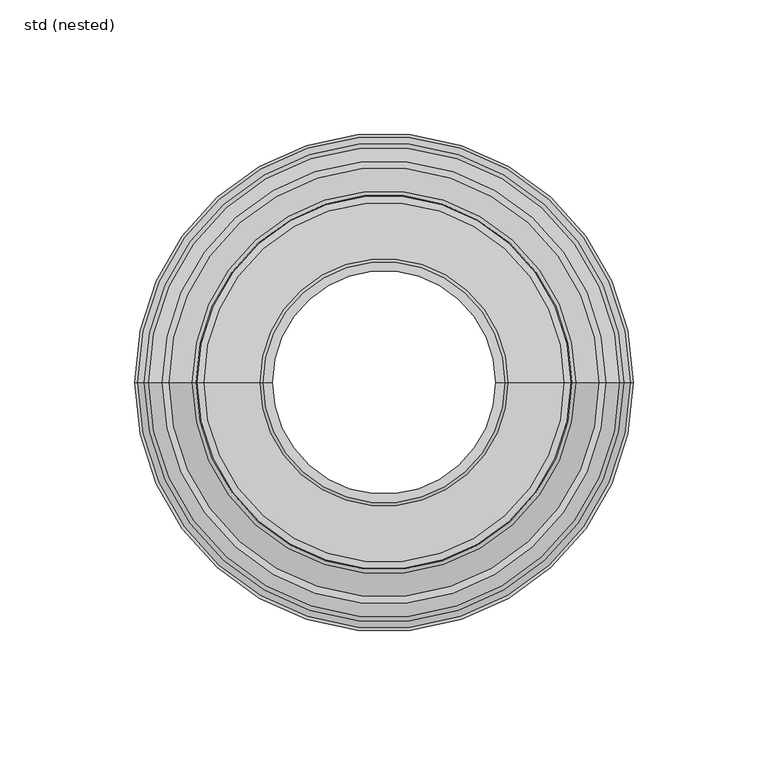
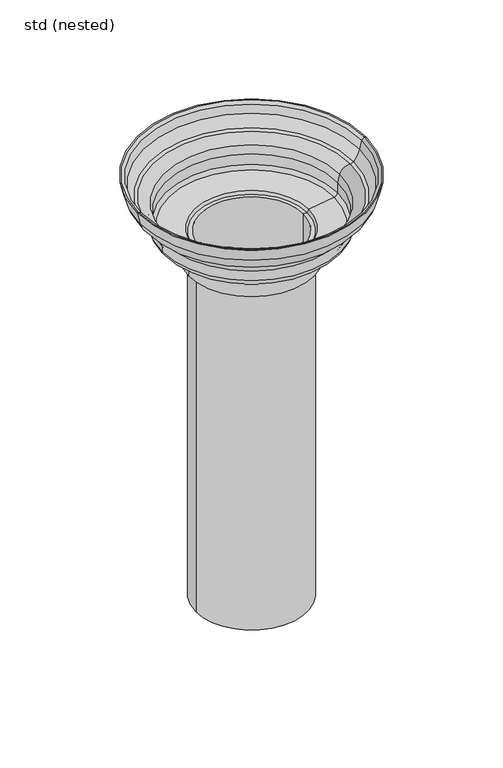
"""IFC4 building model written with IfcOpenShell, lengths in millimetres: sanitary terminal geometry, RSen_50_PF_AV_Akasison vertical pipe connector 90_SH_Akatherm : std (nested)."""

from ifc_helpers import new_model, si_unit, point, frame, origin, place, context, project, spatial, polyline, circle_curve, ellipse_curve, trimmed, source, transform, mapped, element, save
from ifc_brep_helpers import plane_surface, cylinder_surface, revolved_surface, advanced_brep


def std_nested_e9431c89(model_context):
    return source(origin(), model_context, "Body", "AdvancedBrep", [
        advanced_brep(
        [(45.0, 0.0, -357.52), (-45.0, 0.0, -357.52), (-45.0, 0.0, -68.52), (45.0, 0.0, -68.52), (41.5, 0.0, -357.52), (-41.5, 0.0, -357.52), (41.5, 0.0, -48.02), (-41.5, 0.0, -48.02), (90.0047931, 0.0, -10.1812936), (-90.0047931, 0.0, -10.1812936), (-92.4995384, 0.0, 0.0), (92.4995384, 0.0, 0.0), (84.2466253, 0.0, -20.0231125), (-84.2466253, 0.0, -20.0231125), (79.1473684, 0.0, -21.6811629), (-79.1473684, 0.0, -21.6811629), (73.6605848, 0.0, -25.792428), (-73.6605848, 0.0, -25.792428), (72.660037, 0.0, -31.3780377), (-72.660037, 0.0, -31.3780377), (72.3644862, 0.0, -39.8415054), (-72.3644862, 0.0, -39.8415054), (67.2031799, 0.0, -45.5737168), (-67.2031799, 0.0, -45.5737168), (56.324613, 0.0, -47.1025997), (-56.324613, 0.0, -47.1025997), (51.1605654, 0.0, -52.9394936), (-51.1605654, 0.0, -52.9394936), (50.8886067, 0.0, -68.52), (-50.8886067, 0.0, -68.52), (44.7679122, 0.0, -48.02), (-44.7679122, 0.0, -48.02), (45.9530602, 0.0, -45.5307436), (-45.9530602, 0.0, -45.5307436), (66.7856606, 0.0, -42.6029126), (-66.7856606, 0.0, -42.6029126), (69.3663137, 0.0, -39.7368069), (-69.3663137, 0.0, -39.7368069), (69.6684176, 0.0, -31.0856847), (-69.6684176, 0.0, -31.0856847), (71.1043754, 0.0, -24.3118251), (-71.1043754, 0.0, -24.3118251), (79.7201822, 0.0, -18.6593312), (-79.7201822, 0.0, -18.6593312), (82.2933078, 0.0, -17.7029777), (-82.2933078, 0.0, -17.7029777), (87.2752615, 0.0, -8.7152952), (-87.2752615, 0.0, -8.7152952), (88.9439984, 0.0, -1.9050206), (-88.9439984, 0.0, -1.9050206), (91.3721663, 0.0, 0.0), (-91.3721663, 0.0, 0.0)],
        [
            (0, 1, circle_curve(frame((0.0, 0.0, -357.52), z_axis=(0.0, 0.0, 1.0), x_axis=(-1.0, 0.0, 0.0)), 45.0)),
            (1, 2),
            (2, 3, circle_curve(frame((0.0, 0.0, -68.52), z_axis=(0.0, 0.0, -1.0), x_axis=(-1.0, 0.0, 0.0)), 45.0)),
            (3, 0),
            (1, 0, circle_curve(frame((0.0, 0.0, -357.52), z_axis=(0.0, 0.0, 1.0), x_axis=(-1.0, 0.0, 0.0)), 45.0)),
            (3, 2, circle_curve(frame((0.0, 0.0, -68.52), z_axis=(0.0, 0.0, -1.0), x_axis=(-1.0, 0.0, 0.0)), 45.0)),
            (4, 5, circle_curve(frame((0.0, 0.0, -357.52), z_axis=(0.0, 0.0, 1.0), x_axis=(-1.0, 0.0, 0.0)), 41.5)),
            (5, 1),
            (0, 4),
            (5, 4, circle_curve(frame((0.0, 0.0, -357.52), z_axis=(0.0, 0.0, 1.0), x_axis=(-1.0, 0.0, 0.0)), 41.5)),
            (6, 7, circle_curve(frame((0.0, 0.0, -48.02), z_axis=(0.0, 0.0, 1.0), x_axis=(-1.0, 0.0, 0.0)), 41.5)),
            (7, 5),
            (4, 6),
            (7, 6, circle_curve(frame((0.0, 0.0, -48.02), z_axis=(0.0, 0.0, 1.0), x_axis=(-1.0, 0.0, 0.0)), 41.5)),
            (8, 9, circle_curve(frame((0.0, 0.0, -10.1812936), z_axis=(0.0, 0.0, 1.0), x_axis=(-1.0, 0.0, 0.0)), 90.0047931)),
            (9, 10),
            (10, 11, circle_curve(frame((0.0, 0.0, 0.0), z_axis=(0.0, 0.0, -1.0), x_axis=(-1.0, 0.0, 0.0)), 92.4995384)),
            (11, 8),
            (9, 8, circle_curve(frame((0.0, 0.0, -10.1812936), z_axis=(0.0, 0.0, 1.0), x_axis=(-1.0, 0.0, 0.0)), 90.0047931)),
            (11, 10, circle_curve(frame((0.0, 0.0, 0.0), z_axis=(0.0, 0.0, -1.0), x_axis=(-1.0, 0.0, 0.0)), 92.4995384)),
            (12, 13, circle_curve(frame((0.0, 0.0, -20.0231125), z_axis=(0.0, 0.0, 1.0), x_axis=(-1.0, 0.0, 0.0)), 84.2466253)),
            (13, 9, circle_curve(frame((-70.5794497, 0.0, -5.4214581), z_axis=(0.0, 1.0, 0.0), x_axis=(1.0, 0.0, 0.0)), 20.0)),
            (8, 12, circle_curve(frame((70.5794497, 0.0, -5.4214581), z_axis=(0.0, 1.0, 0.0), x_axis=(-1.0, 0.0, 0.0)), 20.0)),
            (13, 12, circle_curve(frame((0.0, 0.0, -20.0231125), z_axis=(0.0, 0.0, 1.0), x_axis=(-1.0, 0.0, 0.0)), 84.2466253)),
            (14, 15, circle_curve(frame((0.0, 0.0, -21.6811629), z_axis=(0.0, 0.0, 1.0), x_axis=(-1.0, 0.0, 0.0)), 79.1473684)),
            (15, 13, circle_curve(frame((-78.8081659, 0.0, -11.9676726), z_axis=(0.0, 1.0, 0.0), x_axis=(1.0, 0.0, 0.0)), 9.7194111)),
            (12, 14, circle_curve(frame((78.8081659, 0.0, -11.9676726), z_axis=(0.0, 1.0, 0.0), x_axis=(-1.0, 0.0, 0.0)), 9.7194111)),
            (15, 14, circle_curve(frame((0.0, 0.0, -21.6811629), z_axis=(0.0, 0.0, 1.0), x_axis=(-1.0, 0.0, 0.0)), 79.1473684)),
            (16, 17, circle_curve(frame((0.0, 0.0, -25.792428), z_axis=(0.0, 0.0, 1.0), x_axis=(-1.0, 0.0, 0.0)), 73.6605848)),
            (17, 15, circle_curve(frame((-79.3567654, 0.0, -27.6775079), z_axis=(0.0, -1.0, 0.0), x_axis=(1.0, 0.0, 0.0)), 6.0)),
            (14, 16, circle_curve(frame((79.3567654, 0.0, -27.6775079), z_axis=(0.0, -1.0, 0.0), x_axis=(-1.0, 0.0, 0.0)), 6.0)),
            (17, 16, circle_curve(frame((0.0, 0.0, -25.792428), z_axis=(0.0, 0.0, 1.0), x_axis=(-1.0, 0.0, 0.0)), 73.6605848)),
            (18, 19, circle_curve(frame((0.0, 0.0, -31.3780377), z_axis=(0.0, 0.0, 1.0), x_axis=(-1.0, 0.0, 0.0)), 72.660037)),
            (19, 17, circle_curve(frame((-92.6478536, 0.0, -32.0760276), z_axis=(0.0, -1.0, 0.0), x_axis=(1.0, 0.0, 0.0)), 20.0)),
            (16, 18, circle_curve(frame((92.6478536, 0.0, -32.0760276), z_axis=(0.0, -1.0, 0.0), x_axis=(-1.0, 0.0, 0.0)), 20.0)),
            (19, 18, circle_curve(frame((0.0, 0.0, -31.3780377), z_axis=(0.0, 0.0, 1.0), x_axis=(-1.0, 0.0, 0.0)), 72.660037)),
            (20, 21, circle_curve(frame((0.0, 0.0, -39.8415054), z_axis=(0.0, 0.0, 1.0), x_axis=(-1.0, 0.0, 0.0)), 72.3644862)),
            (21, 19),
            (18, 20),
            (21, 20, circle_curve(frame((0.0, 0.0, -39.8415054), z_axis=(0.0, 0.0, 1.0), x_axis=(-1.0, 0.0, 0.0)), 72.3644862)),
            (22, 23, circle_curve(frame((0.0, 0.0, -45.5737168), z_axis=(0.0, 0.0, 1.0), x_axis=(-1.0, 0.0, 0.0)), 67.2031799)),
            (23, 21, circle_curve(frame((-66.3681413, 0.0, -39.6321084), z_axis=(0.0, 1.0, 0.0), x_axis=(1.0, 0.0, 0.0)), 6.0)),
            (20, 22, circle_curve(frame((66.3681413, 0.0, -39.6321084), z_axis=(0.0, 1.0, 0.0), x_axis=(-1.0, 0.0, 0.0)), 6.0)),
            (23, 22, circle_curve(frame((0.0, 0.0, -45.5737168), z_axis=(0.0, 0.0, 1.0), x_axis=(-1.0, 0.0, 0.0)), 67.2031799)),
            (24, 25, circle_curve(frame((0.0, 0.0, -47.1025997), z_axis=(0.0, 0.0, 1.0), x_axis=(-1.0, 0.0, 0.0)), 56.324613)),
            (25, 23),
            (22, 24),
            (25, 24, circle_curve(frame((0.0, 0.0, -47.1025997), z_axis=(0.0, 0.0, 1.0), x_axis=(-1.0, 0.0, 0.0)), 56.324613)),
            (26, 27, circle_curve(frame((0.0, 0.0, -52.9394936), z_axis=(0.0, 0.0, 1.0), x_axis=(-1.0, 0.0, 0.0)), 51.1605654)),
            (27, 25, circle_curve(frame((-57.1596516, 0.0, -53.0442081), z_axis=(0.0, -1.0, 0.0), x_axis=(1.0, 0.0, 0.0)), 6.0)),
            (24, 26, circle_curve(frame((57.1596516, 0.0, -53.0442081), z_axis=(0.0, -1.0, 0.0), x_axis=(-1.0, 0.0, 0.0)), 6.0)),
            (27, 26, circle_curve(frame((0.0, 0.0, -52.9394936), z_axis=(0.0, 0.0, 1.0), x_axis=(-1.0, 0.0, 0.0)), 51.1605654)),
            (28, 29, circle_curve(frame((0.0, 0.0, -68.52), z_axis=(0.0, 0.0, 1.0), x_axis=(-1.0, 0.0, 0.0)), 50.8886067)),
            (29, 27),
            (26, 28),
            (29, 28, circle_curve(frame((0.0, 0.0, -68.52), z_axis=(0.0, 0.0, 1.0), x_axis=(-1.0, 0.0, 0.0)), 50.8886067)),
            (2, 29),
            (28, 3),
            (30, 31, circle_curve(frame((0.0, 0.0, -48.02), z_axis=(0.0, 0.0, 1.0), x_axis=(-1.0, 0.0, 0.0)), 44.7679122)),
            (31, 7),
            (6, 30),
            (31, 30, circle_curve(frame((0.0, 0.0, -48.02), z_axis=(0.0, 0.0, 1.0), x_axis=(-1.0, 0.0, 0.0)), 44.7679122)),
            (32, 33, circle_curve(frame((0.0, 0.0, -45.5307436), z_axis=(0.0, 0.0, 1.0), x_axis=(-1.0, 0.0, 0.0)), 45.9530602)),
            (33, 31),
            (30, 32),
            (33, 32, circle_curve(frame((0.0, 0.0, -45.5307436), z_axis=(0.0, 0.0, 1.0), x_axis=(-1.0, 0.0, 0.0)), 45.9530602)),
            (34, 35, circle_curve(frame((0.0, 0.0, -42.6029126), z_axis=(0.0, 0.0, 1.0), x_axis=(-1.0, 0.0, 0.0)), 66.7856606)),
            (35, 33),
            (32, 34),
            (35, 34, circle_curve(frame((0.0, 0.0, -42.6029126), z_axis=(0.0, 0.0, 1.0), x_axis=(-1.0, 0.0, 0.0)), 66.7856606)),
            (36, 37, circle_curve(frame((0.0, 0.0, -39.7368069), z_axis=(0.0, 0.0, 1.0), x_axis=(-1.0, 0.0, 0.0)), 69.3663137)),
            (37, 35, circle_curve(frame((-66.3681413, 0.0, -39.6321084), z_axis=(0.0, -1.0, 0.0), x_axis=(1.0, 0.0, 0.0)), 3.0)),
            (34, 36, circle_curve(frame((66.3681413, 0.0, -39.6321084), z_axis=(0.0, -1.0, 0.0), x_axis=(-1.0, 0.0, 0.0)), 3.0)),
            (37, 36, circle_curve(frame((0.0, 0.0, -39.7368069), z_axis=(0.0, 0.0, 1.0), x_axis=(-1.0, 0.0, 0.0)), 69.3663137)),
            (38, 39, circle_curve(frame((0.0, 0.0, -31.0856847), z_axis=(0.0, 0.0, 1.0), x_axis=(-1.0, 0.0, 0.0)), 69.6684176)),
            (39, 37),
            (36, 38),
            (39, 38, circle_curve(frame((0.0, 0.0, -31.0856847), z_axis=(0.0, 0.0, 1.0), x_axis=(-1.0, 0.0, 0.0)), 69.6684176)),
            (40, 41, circle_curve(frame((0.0, 0.0, -24.3118251), z_axis=(0.0, 0.0, 1.0), x_axis=(-1.0, 0.0, 0.0)), 71.1043754)),
            (41, 39, circle_curve(frame((-100.0862147, 0.0, -33.9946758), z_axis=(0.0, 1.0, 0.0), x_axis=(1.0, 0.0, 0.0)), 30.5565804)),
            (38, 40, circle_curve(frame((100.0862147, 0.0, -33.9946758), z_axis=(0.0, 1.0, 0.0), x_axis=(-1.0, 0.0, 0.0)), 30.5565804)),
            (41, 40, circle_curve(frame((0.0, 0.0, -24.3118251), z_axis=(0.0, 0.0, 1.0), x_axis=(-1.0, 0.0, 0.0)), 71.1043754)),
            (42, 43, circle_curve(frame((0.0, 0.0, -18.6593312), z_axis=(0.0, 0.0, 1.0), x_axis=(-1.0, 0.0, 0.0)), 79.7201822)),
            (43, 41, circle_curve(frame((-78.9963033, 0.0, -26.9485232), z_axis=(0.0, 1.0, 0.0), x_axis=(1.0, 0.0, 0.0)), 8.3207394)),
            (40, 42, circle_curve(frame((78.9963033, 0.0, -26.9485232), z_axis=(0.0, 1.0, 0.0), x_axis=(-1.0, 0.0, 0.0)), 8.3207394)),
            (43, 42, circle_curve(frame((0.0, 0.0, -18.6593312), z_axis=(0.0, 0.0, 1.0), x_axis=(-1.0, 0.0, 0.0)), 79.7201822)),
            (44, 45, circle_curve(frame((0.0, 0.0, -17.7029777), z_axis=(0.0, 0.0, 1.0), x_axis=(-1.0, 0.0, 0.0)), 82.2933078)),
            (45, 43, circle_curve(frame((-79.9987744, 0.0, -15.4691502), z_axis=(0.0, -1.0, 0.0), x_axis=(1.0, 0.0, 0.0)), 3.2023224)),
            (42, 44, circle_curve(frame((79.9987744, 0.0, -15.4691502), z_axis=(0.0, -1.0, 0.0), x_axis=(-1.0, 0.0, 0.0)), 3.2023224)),
            (45, 44, circle_curve(frame((0.0, 0.0, -17.7029777), z_axis=(0.0, 0.0, 1.0), x_axis=(-1.0, 0.0, 0.0)), 82.2933078)),
            (46, 47, circle_curve(frame((0.0, 0.0, -8.7152952), z_axis=(0.0, 0.0, 1.0), x_axis=(-1.0, 0.0, 0.0)), 87.2752615)),
            (47, 45, circle_curve(frame((-68.280587, 0.0, -4.0609875), z_axis=(0.0, -1.0, 0.0), x_axis=(1.0, 0.0, 0.0)), 19.5565907)),
            (44, 46, circle_curve(frame((68.280587, 0.0, -4.0609875), z_axis=(0.0, -1.0, 0.0), x_axis=(-1.0, 0.0, 0.0)), 19.5565907)),
            (47, 46, circle_curve(frame((0.0, 0.0, -8.7152952), z_axis=(0.0, 0.0, 1.0), x_axis=(-1.0, 0.0, 0.0)), 87.2752615)),
            (48, 49, circle_curve(frame((0.0, 0.0, -1.9050206), z_axis=(0.0, 0.0, 1.0), x_axis=(-1.0, 0.0, 0.0)), 88.9439984)),
            (49, 47),
            (46, 48),
            (49, 48, circle_curve(frame((0.0, 0.0, -1.9050206), z_axis=(0.0, 0.0, 1.0), x_axis=(-1.0, 0.0, 0.0)), 88.9439984)),
            (50, 51, circle_curve(frame((0.0, 0.0, 0.0), z_axis=(0.0, 0.0, 1.0), x_axis=(-1.0, 0.0, 0.0)), 91.3721663)),
            (51, 49, circle_curve(frame((-91.3721663, 0.0, -2.5), z_axis=(0.0, 1.0, 0.0), x_axis=(1.0, 0.0, 0.0)), 2.5)),
            (48, 50, circle_curve(frame((91.3721663, 0.0, -2.5), z_axis=(0.0, 1.0, 0.0), x_axis=(-1.0, 0.0, 0.0)), 2.5)),
            (51, 50, circle_curve(frame((0.0, 0.0, 0.0), z_axis=(0.0, 0.0, 1.0), x_axis=(-1.0, 0.0, 0.0)), 91.3721663)),
            (10, 51),
            (50, 11),
        ],
        [
            cylinder_surface(frame((0.0, 0.0, -73.52), z_axis=(0.0, 0.0, -1.0), x_axis=(-1.0, 0.0, 0.0)), 45.0),
            plane_surface(frame((0.0, 0.0, -357.52), z_axis=(0.0, 0.0, -1.0), x_axis=(-1.0, 0.0, 0.0))),
            revolved_surface(polyline([(-41.5, 0.0, -357.52), (-41.5, 0.0, -48.02)]), (0.0, 0.0, -73.52), (0.0, 0.0, -1.0)),
            revolved_surface(polyline([(-92.4995384, 0.0, 0.0), (-90.0047931, 0.0, -10.1812936)]), (0.0, 0.0, -73.52), (0.0, 0.0, -1.0)),
            revolved_surface(trimmed(ellipse_curve(frame((-70.5794497, 0.0, -5.4214581), z_axis=(0.0, -1.0, 0.0), x_axis=(1.0, 0.0, 0.0)), 20.0, 20.0), [point((-90.0047931, 0.0, -10.1812936))], [point((-84.2466253, 0.0, -20.0231125))], True, "CARTESIAN"), (0.0, 0.0, -73.52), (0.0, 0.0, -1.0)),
            revolved_surface(trimmed(ellipse_curve(frame((-78.8081659, 0.0, -11.9676726), z_axis=(0.0, -1.0, 0.0), x_axis=(1.0, 0.0, 0.0)), 9.7194111, 9.7194111), [point((-84.2466253, 0.0, -20.0231125))], [point((-79.1473684, 0.0, -21.6811629))], True, "CARTESIAN"), (0.0, 0.0, -73.52), (0.0, 0.0, -1.0)),
            revolved_surface(trimmed(ellipse_curve(frame((-79.3567654, 0.0, -27.6775079), z_axis=(0.0, 1.0, 0.0), x_axis=(1.0, 0.0, 0.0)), 6.0, 6.0), [point((-79.1473684, 0.0, -21.6811629))], [point((-73.6605848, 0.0, -25.792428))], True, "CARTESIAN"), (0.0, 0.0, -73.52), (0.0, 0.0, -1.0)),
            revolved_surface(trimmed(ellipse_curve(frame((-92.6478536, 0.0, -32.0760276), z_axis=(0.0, 1.0, 0.0), x_axis=(1.0, 0.0, 0.0)), 20.0, 20.0), [point((-73.6605848, 0.0, -25.792428))], [point((-72.660037, 0.0, -31.3780377))], True, "CARTESIAN"), (0.0, 0.0, -73.52), (0.0, 0.0, -1.0)),
            revolved_surface(polyline([(-72.660037, 0.0, -31.3780377), (-72.3644862, 0.0, -39.8415054)]), (0.0, 0.0, -73.52), (0.0, 0.0, -1.0)),
            revolved_surface(trimmed(ellipse_curve(frame((-66.3681413, 0.0, -39.6321084), z_axis=(0.0, -1.0, 0.0), x_axis=(1.0, 0.0, 0.0)), 6.0, 6.0), [point((-72.3644862, 0.0, -39.8415054))], [point((-67.2031799, 0.0, -45.5737168))], True, "CARTESIAN"), (0.0, 0.0, -73.52), (0.0, 0.0, -1.0)),
            revolved_surface(polyline([(-67.2031799, 0.0, -45.5737168), (-56.324613, 0.0, -47.1025997)]), (0.0, 0.0, -73.52), (0.0, 0.0, -1.0)),
            revolved_surface(trimmed(ellipse_curve(frame((-57.1596516, 0.0, -53.0442081), z_axis=(0.0, 1.0, 0.0), x_axis=(1.0, 0.0, 0.0)), 6.0, 6.0), [point((-56.324613, 0.0, -47.1025997))], [point((-51.1605654, 0.0, -52.9394936))], True, "CARTESIAN"), (0.0, 0.0, -73.52), (0.0, 0.0, -1.0)),
            revolved_surface(polyline([(-51.1605654, 0.0, -52.9394936), (-50.8886067, 0.0, -68.52)]), (0.0, 0.0, -73.52), (0.0, 0.0, -1.0)),
            plane_surface(frame((0.0, 0.0, -68.52), z_axis=(0.0, 0.0, -1.0), x_axis=(-1.0, 0.0, 0.0))),
            plane_surface(frame((0.0, 0.0, -48.02), z_axis=(0.0, 0.0, 1.0), x_axis=(-1.0, 0.0, 0.0))),
            revolved_surface(polyline([(-44.7679122, 0.0, -48.02), (-45.9530602, 0.0, -45.5307436)]), (0.0, 0.0, -73.52), (0.0, 0.0, -1.0)),
            revolved_surface(polyline([(-45.9530602, 0.0, -45.5307436), (-66.7856606, 0.0, -42.6029126)]), (0.0, 0.0, -73.52), (0.0, 0.0, -1.0)),
            revolved_surface(trimmed(ellipse_curve(frame((-66.3681413, 0.0, -39.6321084), z_axis=(0.0, 1.0, 0.0), x_axis=(1.0, 0.0, 0.0)), 3.0, 3.0), [point((-66.7856606, 0.0, -42.6029126))], [point((-69.3663137, 0.0, -39.7368069))], True, "CARTESIAN"), (0.0, 0.0, -73.52), (0.0, 0.0, -1.0)),
            revolved_surface(polyline([(-69.3663137, 0.0, -39.7368069), (-69.6684176, 0.0, -31.0856847)]), (0.0, 0.0, -73.52), (0.0, 0.0, -1.0)),
            revolved_surface(trimmed(ellipse_curve(frame((-100.0862147, 0.0, -33.9946758), z_axis=(0.0, -1.0, 0.0), x_axis=(1.0, 0.0, 0.0)), 30.5565804, 30.5565804), [point((-69.6684176, 0.0, -31.0856847))], [point((-71.1043754, 0.0, -24.3118251))], True, "CARTESIAN"), (0.0, 0.0, -73.52), (0.0, 0.0, -1.0)),
            revolved_surface(trimmed(ellipse_curve(frame((-78.9963033, 0.0, -26.9485232), z_axis=(0.0, -1.0, 0.0), x_axis=(1.0, 0.0, 0.0)), 8.3207394, 8.3207394), [point((-71.1043754, 0.0, -24.3118251))], [point((-79.7201822, 0.0, -18.6593312))], True, "CARTESIAN"), (0.0, 0.0, -73.52), (0.0, 0.0, -1.0)),
            revolved_surface(trimmed(ellipse_curve(frame((-79.9987744, 0.0, -15.4691502), z_axis=(0.0, 1.0, 0.0), x_axis=(1.0, 0.0, 0.0)), 3.2023224, 3.2023224), [point((-79.7201822, 0.0, -18.6593312))], [point((-82.2933078, 0.0, -17.7029777))], True, "CARTESIAN"), (0.0, 0.0, -73.52), (0.0, 0.0, -1.0)),
            revolved_surface(trimmed(ellipse_curve(frame((-68.280587, 0.0, -4.0609875), z_axis=(0.0, 1.0, 0.0), x_axis=(1.0, 0.0, 0.0)), 19.5565907, 19.5565907), [point((-82.2933078, 0.0, -17.7029777))], [point((-87.2752615, 0.0, -8.7152952))], True, "CARTESIAN"), (0.0, 0.0, -73.52), (0.0, 0.0, -1.0)),
            revolved_surface(polyline([(-87.2752615, 0.0, -8.7152952), (-88.9439984, 0.0, -1.9050206)]), (0.0, 0.0, -73.52), (0.0, 0.0, -1.0)),
            revolved_surface(trimmed(ellipse_curve(frame((-91.3721663, 0.0, -2.5), z_axis=(0.0, -1.0, 0.0), x_axis=(1.0, 0.0, 0.0)), 2.5, 2.5), [point((-88.9439984, 0.0, -1.9050206))], [point((-91.3721663, 0.0, 0.0))], True, "CARTESIAN"), (0.0, 0.0, -73.52), (0.0, 0.0, -1.0)),
            plane_surface(frame((0.0, 0.0, 0.0), z_axis=(0.0, 0.0, 1.0), x_axis=(-1.0, 0.0, 0.0))),
        ],
        [
            (0, [[1, 2, 3, 4]]),
            (0, [[5, -4, 6, -2]]),
            (1, [[7, 8, -1, 9]]),
            (1, [[10, -9, -5, -8]]),
            (2, [[11, 12, -7, 13]]),
            (2, [[14, -13, -10, -12]]),
            (3, [[15, 16, 17, 18]]),
            (3, [[19, -18, 20, -16]]),
            (4, [[21, 22, -15, 23]]),
            (4, [[24, -23, -19, -22]]),
            (5, [[25, 26, -21, 27]]),
            (5, [[28, -27, -24, -26]]),
            (6, [[29, 30, -25, 31]]),
            (6, [[32, -31, -28, -30]]),
            (7, [[33, 34, -29, 35]]),
            (7, [[36, -35, -32, -34]]),
            (8, [[37, 38, -33, 39]]),
            (8, [[40, -39, -36, -38]]),
            (9, [[41, 42, -37, 43]]),
            (9, [[44, -43, -40, -42]]),
            (10, [[45, 46, -41, 47]]),
            (10, [[48, -47, -44, -46]]),
            (11, [[49, 50, -45, 51]]),
            (11, [[52, -51, -48, -50]]),
            (12, [[53, 54, -49, 55]]),
            (12, [[56, -55, -52, -54]]),
            (13, [[-3, 57, -53, 58]]),
            (13, [[-6, -58, -56, -57]]),
            (14, [[59, 60, -11, 61]]),
            (14, [[62, -61, -14, -60]]),
            (15, [[63, 64, -59, 65]]),
            (15, [[66, -65, -62, -64]]),
            (16, [[67, 68, -63, 69]]),
            (16, [[70, -69, -66, -68]]),
            (17, [[71, 72, -67, 73]]),
            (17, [[74, -73, -70, -72]]),
            (18, [[75, 76, -71, 77]]),
            (18, [[78, -77, -74, -76]]),
            (19, [[79, 80, -75, 81]]),
            (19, [[82, -81, -78, -80]]),
            (20, [[83, 84, -79, 85]]),
            (20, [[86, -85, -82, -84]]),
            (21, [[87, 88, -83, 89]]),
            (21, [[90, -89, -86, -88]]),
            (22, [[91, 92, -87, 93]]),
            (22, [[94, -93, -90, -92]]),
            (23, [[95, 96, -91, 97]]),
            (23, [[98, -97, -94, -96]]),
            (24, [[99, 100, -95, 101]]),
            (24, [[102, -101, -98, -100]]),
            (25, [[-17, 103, -99, 104]]),
            (25, [[-20, -104, -102, -103]]),
        ],
    ),
    ])


if __name__ == "__main__":
    model = new_model("IFC4")
    model_context = context("Model", 3, world=origin())
    ifc_project = project(units=[si_unit("LENGTHUNIT", "METRE", prefix="MILLI")], contexts=[model_context])
    site = spatial("IfcSite", under=ifc_project)
    building = spatial("IfcBuilding", under=site)
    placement = place(None, origin())
    std_nested_shape = std_nested_e9431c89(model_context)
    element("IfcSanitaryTerminal", 1, ObjectType="RSen_50_PF_AV_Akasison vertical pipe connector 90_SH_Akatherm : std (nested)", at=placement, inside=building, context=model_context, shape_type="MappedRepresentation", body=[
        mapped(std_nested_shape, transform((0.0, 0.0, 0.0), x_axis=(1.0, 0.0, 0.0), y_axis=(0.0, 1.0, 0.0), z_axis=(0.0, 0.0, 1.0))),
    ])
    save(model, "model.ifc")
